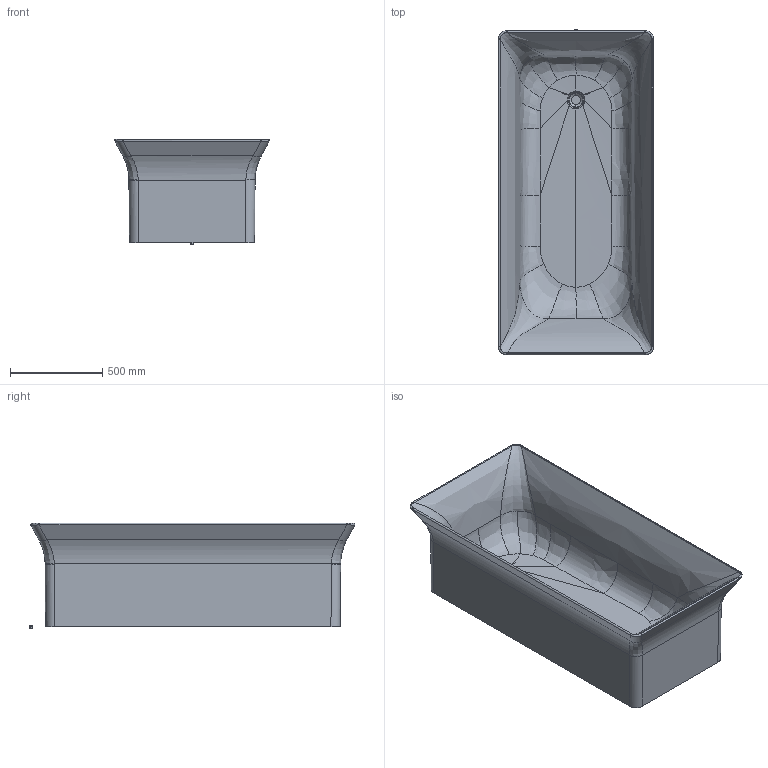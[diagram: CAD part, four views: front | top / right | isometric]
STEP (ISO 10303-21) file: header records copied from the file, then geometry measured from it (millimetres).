
FILE_DESCRIPTION((''),'2;1');
FILE_NAME('WN1602_T5518_3DPL','2024-07-17T13:13:08',('HristovG'),('IDEAL STANDARD BVBA'),'CREO PARAMETRIC BY PTC INC, 2022024','CREO PARAMETRIC BY PTC INC, 2022024','');
FILE_SCHEMA(('AP242_MANAGED_MODEL_BASED_3D_ENGINEERING_MIM_LF { 1 0 10303 442 1 1 4 }'));
Length unit declared in the file: millimetre
Products named in the file (1): WN1602_T5518_3DPL
Bounding box: 841.67 x 1770.23 x 572.91 mm (x, y, z)
Volume: 217547051 mm3; surface area: 6498876.8 mm2
Topology: 1 solids, 4 shells, 146 faces, 381 edges, 242 vertices
Faces by surface type: bspline 74, cylinder 24, plane 22, torus 10, extrusion 9, cone 7
Entity records: 19369 total; most frequent: CARTESIAN_POINT 16144, ORIENTED_EDGE 748, EDGE_CURVE 380, DIRECTION 352, VERTEX_POINT 240, B_SPLINE_CURVE_WITH_KNOTS 234, EDGE_LOOP 147, FACE_OUTER_BOUND 146
